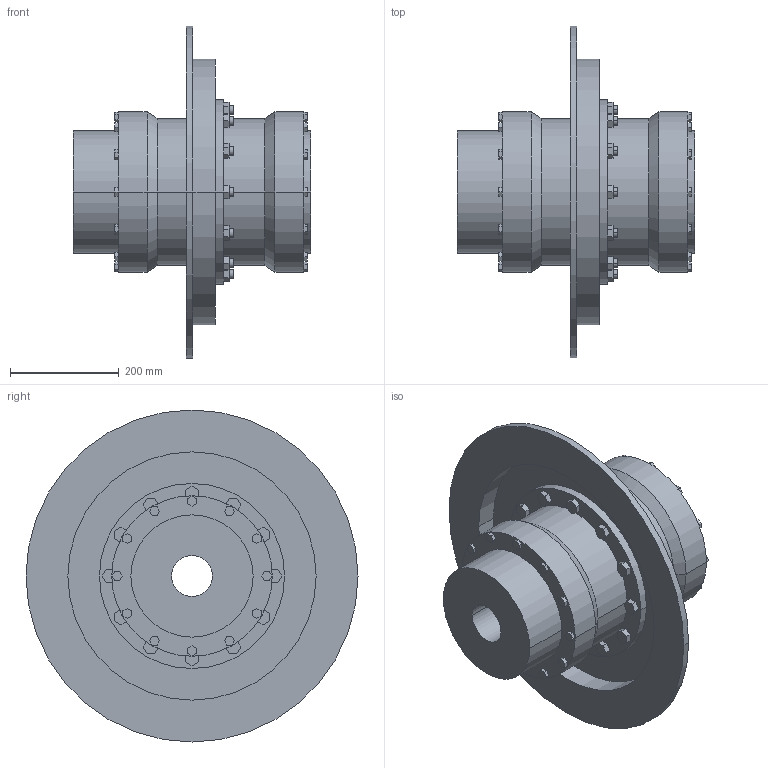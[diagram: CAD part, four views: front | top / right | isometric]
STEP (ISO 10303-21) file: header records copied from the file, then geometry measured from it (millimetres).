
FILE_DESCRIPTION((''),'2;1');
FILE_NAME('A19720900-0_ASM','2019-05-23T',('AB_Roschiwal'),('RENK AG'),'PRO/ENGINEER BY PARAMETRIC TECHNOLOGY CORPORATION, 2015440','PRO/ENGINEER BY PARAMETRIC TECHNOLOGY CORPORATION, 2015440','');
FILE_SCHEMA(('CONFIG_CONTROL_DESIGN'));
Length unit declared in the file: millimetre
Products named in the file (4): SBKT140_GEHAEUSE; SBKT140_NABE; SBKT140_BREMSSCHEIBE; A19720900-0_ASM
Assembly tree (4 placements, depth 2):
  A19720900-0_ASM
    SBKT140_GEHAEUSE
    SBKT140_NABE  x2
    SBKT140_BREMSSCHEIBE
Bounding box: 437 x 610 x 610 mm (x, y, z)
Volume: 23135175 mm3; surface area: 1935891.6 mm2
Topology: 4 solids, 4 shells, 470 faces, 1156 edges, 768 vertices
Faces by surface type: plane 370, cylinder 96, cone 4
Entity records: 13604 total; most frequent: CARTESIAN_POINT 2350, ORIENTED_EDGE 2264, DIRECTION 2240, EDGE_CURVE 1132, VECTOR 956, LINE 956, VERTEX_POINT 752, AXIS2_PLACEMENT_3D 642
